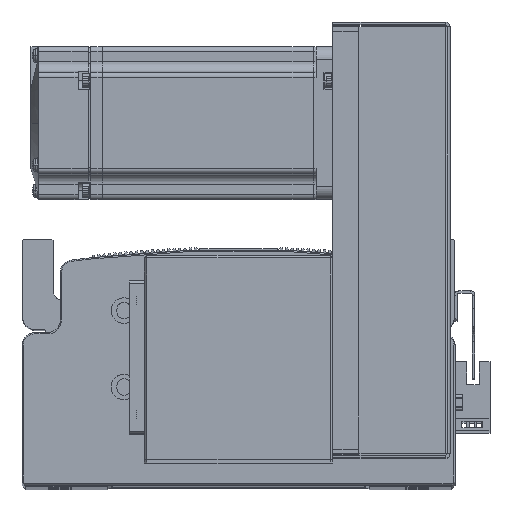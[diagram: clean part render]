
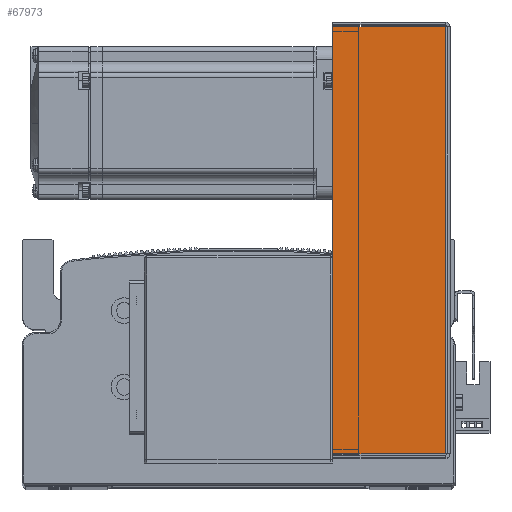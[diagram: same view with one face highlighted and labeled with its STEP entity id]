
A CAD part, top view. The second image highlights one B-rep face of the part: STEP entity #67973.
In plain terms, the highlighted planar face has unit normal (0, 0, 1).
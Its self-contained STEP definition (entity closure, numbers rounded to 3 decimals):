
#1524 = VERTEX_POINT ( 'NONE', #73157 ) ;
#1549 = VERTEX_POINT ( 'NONE', #73172 ) ;
#1562 = VERTEX_POINT ( 'NONE', #73257 ) ;
#1566 = VERTEX_POINT ( 'NONE', #73264 ) ;
#11223 = CARTESIAN_POINT ( 'NONE',  ( 0., 0.737, 40.5 ) ) ;
#11248 = DIRECTION ( 'NONE',  ( -1., 0., 0. ) ) ;
#11280 = CARTESIAN_POINT ( 'NONE',  ( -83.793, 0., 40.5 ) ) ;
#11289 = DIRECTION ( 'NONE',  ( 0., 1., 0. ) ) ;
#11298 = CARTESIAN_POINT ( 'NONE',  ( 83.793, 0., 40.5 ) ) ;
#11300 = DIRECTION ( 'NONE',  ( 0., 1., 0. ) ) ;
#11377 = DIRECTION ( 'NONE',  ( -1., 0., 0. ) ) ;
#11378 = CARTESIAN_POINT ( 'NONE',  ( -84.5, 45., 40.5 ) ) ;
#23354 = LINE ( 'NONE', #11223, #23357 ) ;
#23357 = VECTOR ( 'NONE', #11248, 1000. ) ;
#23429 = LINE ( 'NONE', #11280, #23463 ) ;
#23451 = VECTOR ( 'NONE', #11289, 1000. ) ;
#23463 = VECTOR ( 'NONE', #11300, 1000. ) ;
#23465 = LINE ( 'NONE', #11298, #23451 ) ;
#23482 = LINE ( 'NONE', #11378, #23517 ) ;
#23517 = VECTOR ( 'NONE', #11377, 1000. ) ;
#26325 = AXIS2_PLACEMENT_3D ( 'NONE', #62616, #62602, #62527 ) ;
#32229 = ORIENTED_EDGE ( 'NONE', *, *, #57156, .T. ) ;
#32299 = ORIENTED_EDGE ( 'NONE', *, *, #57135, .F. ) ;
#32301 = ORIENTED_EDGE ( 'NONE', *, *, #57206, .T. ) ;
#32327 = ORIENTED_EDGE ( 'NONE', *, *, #57162, .F. ) ;
#37260 = EDGE_LOOP ( 'NONE', ( #32299, #32229, #32301, #32327 ) ) ;
#57135 = EDGE_CURVE ( 'NONE', #1524, #1549, #23354, .T. ) ;
#57156 = EDGE_CURVE ( 'NONE', #1524, #1566, #23465, .T. ) ;
#57162 = EDGE_CURVE ( 'NONE', #1549, #1562, #23429, .T. ) ;
#57206 = EDGE_CURVE ( 'NONE', #1566, #1562, #23482, .T. ) ;
#62527 = DIRECTION ( 'NONE',  ( -1., 0., 0. ) ) ;
#62600 = PLANE ( 'NONE',  #26325 ) ;
#62602 = DIRECTION ( 'NONE',  ( 0., 0., -1. ) ) ;
#62616 = CARTESIAN_POINT ( 'NONE',  ( 0., 0., 40.5 ) ) ;
#67973 = ADVANCED_FACE ( 'NONE', ( #75528 ), #62600, .F. ) ;
#73157 = CARTESIAN_POINT ( 'NONE',  ( 83.793, 0.737, 40.5 ) ) ;
#73172 = CARTESIAN_POINT ( 'NONE',  ( -83.793, 0.737, 40.5 ) ) ;
#73257 = CARTESIAN_POINT ( 'NONE',  ( -83.793, 45., 40.5 ) ) ;
#73264 = CARTESIAN_POINT ( 'NONE',  ( 83.793, 45., 40.5 ) ) ;
#75528 = FACE_OUTER_BOUND ( 'NONE', #37260, .T. ) ;
